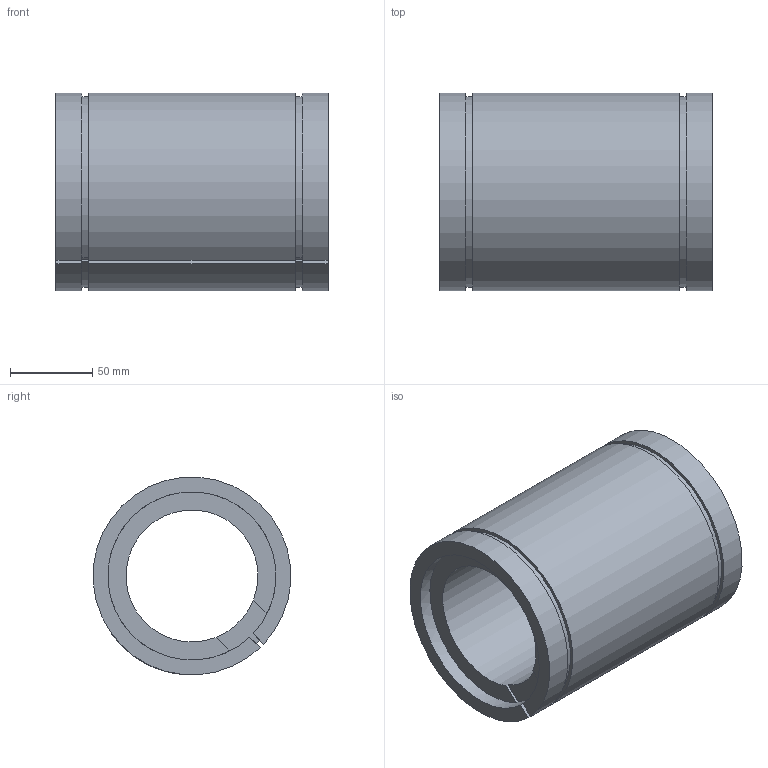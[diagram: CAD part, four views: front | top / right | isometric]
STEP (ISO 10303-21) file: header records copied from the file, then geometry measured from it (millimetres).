
FILE_DESCRIPTION(/* description */ (''),/* implementation_level */ '2;1');
FILE_NAME(/* name */ 'LME80UU-AJ',/* time_stamp */ '2019-07-02T12:06:31+02:00',/* author */ ('VĂ©gh MĂˇtĂ©'),/* organization */ ('Bearing Kft'),/* preprocessor_version */ 'ST-DEVELOPER v16.7',/* originating_system */ 'DEX',/* authorisation */ $);
FILE_SCHEMA (('AUTOMOTIVE_DESIGN {1 0 10303 214 3 1 1}'));
Length unit declared in the file: millimetre
Products named in the file (1): LME80UU-AJ
Bounding box: 165 x 119.67 x 119.67 mm (x, y, z)
Volume: 975527.7 mm3; surface area: 121548 mm2
Topology: 1 solids, 1 shells, 347 faces, 883 edges, 588 vertices
Faces by surface type: plane 183, bspline 103, cylinder 61
Full cylindrical faces by diameter (mm): 80 x1
Entity records: 23980 total; most frequent: CARTESIAN_POINT 16109, ORIENTED_EDGE 1754, DIRECTION 1323, EDGE_CURVE 877, VERTEX_POINT 588, LINE 505, VECTOR 505, AXIS2_PLACEMENT_3D 409
